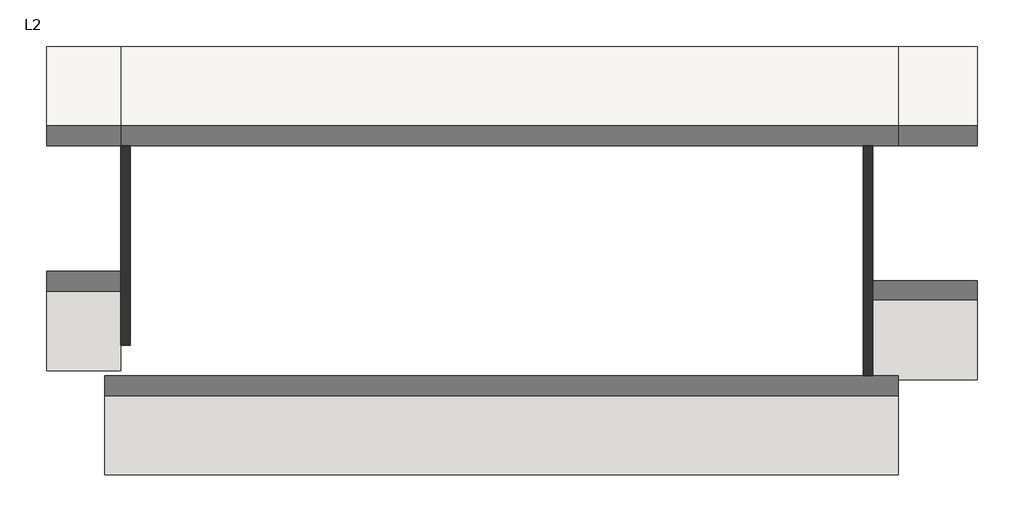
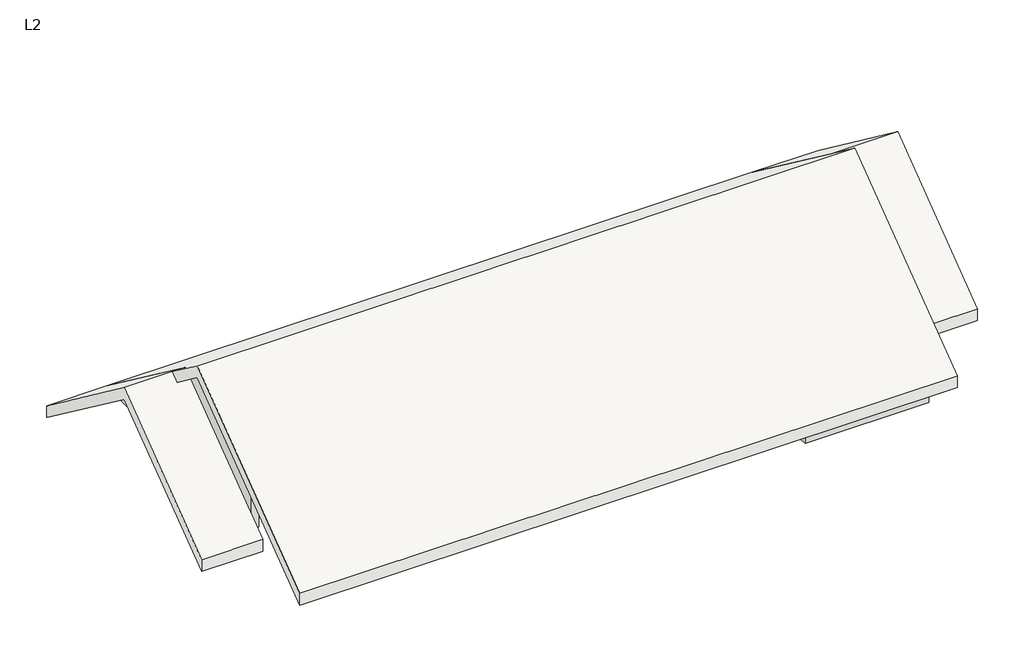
# One storey: 3 roofs, 3 walls.
"""IFC4 building model written with IfcOpenShell, lengths in millimetres."""

from ifc_helpers import new_model, si_unit, frame, origin, place, context, project, spatial, polyline, outline, extrude, faceted_brep, element, save

model = new_model("IFC4")

# Units and contexts
model_context = context("Model", 3, world=origin())
ifc_project = project(units=[si_unit("LENGTHUNIT", "METRE", prefix="MILLI")], contexts=[model_context])

# Site, building, storey
site = spatial("IfcSite", under=ifc_project)
building = spatial("IfcBuilding", under=site)
storey = spatial("IfcBuildingStorey", under=building, Name="L2", Elevation=3657.6)

# Roofs
placement = place(None, origin())
element("IfcRoof", 1, ObjectType="Generic - 9\"", at=placement, inside=storey, context=model_context, shape_type="Brep", body=[
    faceted_brep([(9172.9198067, 4128.076438, 3429.0), (9172.9198067, 927.676438, 5829.3), (9172.9198067, 737.176438, 5972.175), (9172.9198067, 13.276438, 6515.1), (-6067.0801933, 13.276438, 6515.1), (-6067.0801933, 826.076438, 5905.5), (-5762.2801933, 826.076438, 5905.5), (-5762.2801933, 1016.576438, 5762.625), (-5762.2801933, 4128.076438, 3429.0), (9172.9198067, -4101.523562, 3429.0), (-6067.0801933, -4101.523562, 3429.0), (-6067.0801933, 13.276438, 6800.85), (9172.9198067, 13.276438, 6800.85), (9172.9198067, 927.676438, 6115.05), (9172.9198067, 4128.076438, 3714.75), (-5762.2801933, 4128.076438, 3714.75), (-5762.2801933, 1016.576438, 6048.375), (-6067.0801933, 1016.576438, 6048.375), (-6067.0801933, -4101.523562, 3714.75), (9172.9198067, -4101.523562, 3714.75)], [[[0, 1, 2, 3, 4, 5, 6, 7, 8]], [[4, 3, 9, 10]], [[11, 12, 13, 14, 15, 16, 17]], [[12, 11, 18, 19]], [[19, 18, 10, 9]], [[14, 0, 8, 15]], [[4, 10, 18, 11, 17, 5]], [[3, 2, 1, 0, 14, 13, 12, 19, 9]], [[16, 6, 5, 17]], [[6, 16, 15, 8, 7]]]),
])
element("IfcRoof", 2, ObjectType="Generic - 9\"", at=placement, inside=storey, context=model_context, shape_type="Brep", body=[
    faceted_brep([(10696.9198067, 4128.076438, 3429.0), (10696.9198067, 927.676438, 5829.3), (9172.9198067, 927.676438, 5829.3), (9172.9198067, 4128.076438, 3429.0), (10696.9198067, -2272.723562, 3429.0), (8683.9698067, -2272.723562, 3429.0), (8683.9698067, 927.676438, 5829.3), (10696.9198067, 927.676438, 6115.05), (10696.9198067, 4128.076438, 3714.75), (9172.9198067, 4128.076438, 3714.75), (9172.9198067, 927.676438, 6115.05), (10696.9198067, -2272.723562, 3714.75), (9172.9198067, 737.176438, 5972.175), (8683.9698067, 737.176438, 5972.175), (8683.9698067, -2272.723562, 3714.75)], [[[0, 1, 2, 3]], [[1, 4, 5, 6, 2]], [[7, 8, 9, 10]], [[11, 7, 10, 12, 13, 14]], [[8, 0, 3, 9]], [[11, 14, 5, 4]], [[1, 0, 8, 7, 11, 4]], [[6, 5, 14, 13]], [[12, 2, 6, 13]], [[2, 12, 10, 9, 3]]]),
])
element("IfcRoof", 3, ObjectType="Generic - 9\"", at=placement, inside=storey, context=model_context, shape_type="Brep", body=[
    faceted_brep([(-7184.6801933, 1016.576438, 5762.625), (-7184.6801933, 4128.076438, 3429.0), (-5762.2801933, 4128.076438, 3429.0), (-5762.2801933, 1016.576438, 5762.625), (-5762.2801933, -2094.923562, 3429.0), (-7184.6801933, -2094.923562, 3429.0), (-7184.6801933, 4128.076438, 3714.75), (-7184.6801933, 1016.576438, 6048.375), (-6067.0801933, 1016.576438, 6048.375), (-5762.2801933, 1016.576438, 6048.375), (-5762.2801933, 4128.076438, 3714.75), (-7184.6801933, -2094.923562, 3714.75), (-5762.2801933, -2094.923562, 3714.75), (-5762.2801933, 826.076438, 5905.5)], [[[0, 1, 2, 3]], [[4, 5, 0, 3]], [[6, 7, 8, 9, 10]], [[11, 12, 13, 9, 8, 7]], [[4, 12, 11, 5]], [[1, 6, 10, 2]], [[11, 7, 6, 1, 0, 5]], [[10, 9, 13, 12, 4, 3, 2]]]),
])

# Walls
element("IfcWall", 4, ObjectType="Exterior - Wood Siding on Wood Stud", at=placement, inside=storey, context=model_context, shape_type="SweptSolid", body=[
    extrude(outline(polyline([(-1605.973562, 3657.6), (-1605.973562, 5300.6625), (13.276438, 6515.1), (3639.126438, 3795.7125), (3639.126438, 3657.6), (-1605.973562, 3657.6)])), frame((-5762.2801933, 0.0, 0.0), z_axis=(1.0, 0.0, 0.0), x_axis=(0.0, 1.0, 0.0)), (0.0, 0.0, 1.0), 184.15),
])
element("IfcWall", 5, ObjectType="Exterior - Wood Siding on Wood Stud", at=placement, inside=storey, context=model_context, shape_type="Brep", body=[
    faceted_brep([(5820.1198067, -3796.723562, 3048.0), (8683.9698067, -3796.723562, 3048.0), (8683.9698067, -3796.723562, 3657.6), (5820.1198067, -3796.723562, 3657.6), (5820.1198067, -3612.573562, 3048.0), (5820.1198067, -3612.573562, 3795.7125), (8499.8198067, -3612.573562, 3795.7125), (8683.9698067, -3612.573562, 3795.7125), (8683.9698067, -3612.573562, 3048.0), (8652.2198067, -3612.573562, 3048.0), (8499.8198067, -3612.573562, 3048.0)], [[[0, 1, 2, 3]], [[4, 5, 6, 7, 8, 9, 10]], [[1, 0, 4, 10, 9, 8]], [[0, 3, 5, 4]], [[2, 1, 8, 7]], [[3, 2, 7, 6, 5]]]),
])
element("IfcWall", 6, ObjectType="Exterior - Wood Siding on Wood Stud", at=placement, inside=storey, context=model_context, shape_type="SweptSolid", body=[
    extrude(outline(polyline([(-3612.573562, 3048.0), (-3612.573562, 3795.7125), (13.276438, 6515.1), (3639.126438, 3795.7125), (3639.126438, 3048.0), (-1783.773562, 3048.0), (-1783.773562, 3657.6), (-1967.923562, 3657.6), (-1967.923562, 3048.0), (-3612.573562, 3048.0)])), frame((8499.8198067, 0.0, 0.0), z_axis=(1.0, 0.0, 0.0), x_axis=(0.0, 1.0, 0.0)), (0.0, 0.0, 1.0), 184.15),
])

save(model, "model.ifc")
